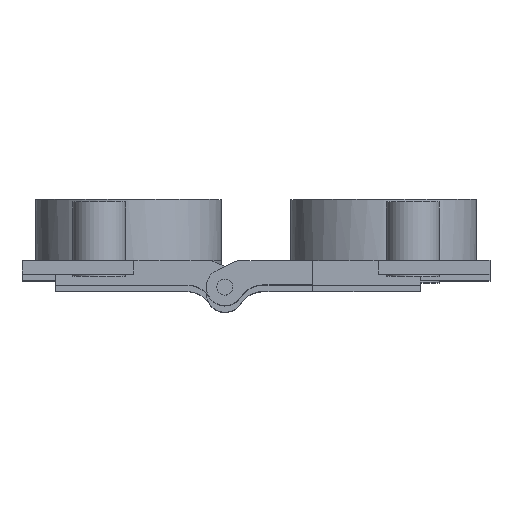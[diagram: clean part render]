
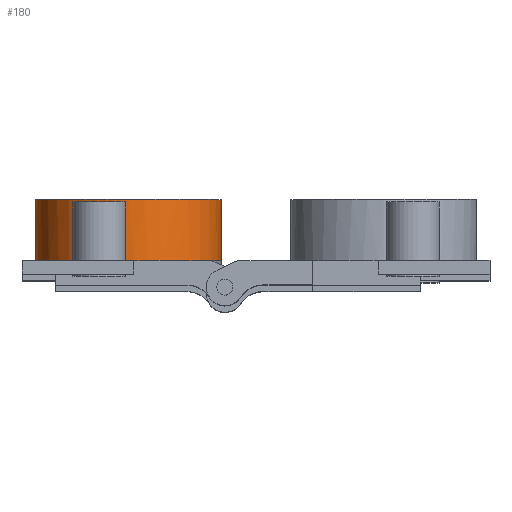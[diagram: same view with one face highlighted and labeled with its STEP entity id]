
A CAD part, top view. The second image highlights one B-rep face of the part: STEP entity #180.
In plain terms, the highlighted cylindrical face has radius 17.5 mm (diameter 35 mm), a full revolution.
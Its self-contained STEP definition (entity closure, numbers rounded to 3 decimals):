
#180 = ADVANCED_FACE( '', ( #417, #418 ), #419, .T. );
#417 = FACE_OUTER_BOUND( '', #734, .T. );
#418 = FACE_OUTER_BOUND( '', #735, .T. );
#419 = CYLINDRICAL_SURFACE( '', #736, 17.5 );
#734 = EDGE_LOOP( '', ( #1131, #1132, #1133, #1134, #1135, #1136, #1137, #1138, #1139, #1140 ) );
#735 = EDGE_LOOP( '', ( #1141 ) );
#736 = AXIS2_PLACEMENT_3D( '', #1142, #1143, #1144 );
#1131 = ORIENTED_EDGE( '', *, *, #1856, .F. );
#1132 = ORIENTED_EDGE( '', *, *, #1857, .F. );
#1133 = ORIENTED_EDGE( '', *, *, #1858, .F. );
#1134 = ORIENTED_EDGE( '', *, *, #1799, .F. );
#1135 = ORIENTED_EDGE( '', *, *, #1859, .F. );
#1136 = ORIENTED_EDGE( '', *, *, #1807, .F. );
#1137 = ORIENTED_EDGE( '', *, *, #1860, .F. );
#1138 = ORIENTED_EDGE( '', *, *, #1804, .F. );
#1139 = ORIENTED_EDGE( '', *, *, #1861, .F. );
#1140 = ORIENTED_EDGE( '', *, *, #1862, .F. );
#1141 = ORIENTED_EDGE( '', *, *, #1863, .T. );
#1142 = CARTESIAN_POINT( '', ( -24., -50., 0. ) );
#1143 = DIRECTION( '', ( 0., 1., 0. ) );
#1144 = DIRECTION( '', ( 0., 0., -1. ) );
#1799 = EDGE_CURVE( '', #2129, #2130, #2131, .T. );
#1804 = EDGE_CURVE( '', #2137, #2139, #2140, .T. );
#1807 = EDGE_CURVE( '', #2143, #2145, #2146, .T. );
#1856 = EDGE_CURVE( '', #2230, #2231, #2232, .T. );
#1857 = EDGE_CURVE( '', #2233, #2230, #2234, .T. );
#1858 = EDGE_CURVE( '', #2130, #2233, #2235, .T. );
#1859 = EDGE_CURVE( '', #2145, #2129, #2236, .T. );
#1860 = EDGE_CURVE( '', #2139, #2143, #2237, .T. );
#1861 = EDGE_CURVE( '', #2238, #2137, #2239, .T. );
#1862 = EDGE_CURVE( '', #2231, #2238, #2240, .T. );
#1863 = EDGE_CURVE( '', #2241, #2241, #2242, .T. );
#2129 = VERTEX_POINT( '', #2589 );
#2130 = VERTEX_POINT( '', #2590 );
#2131 = CIRCLE( '', #2591, 17.5 );
#2137 = VERTEX_POINT( '', #2600 );
#2139 = VERTEX_POINT( '', #2603 );
#2140 = CIRCLE( '', #2604, 17.5 );
#2143 = VERTEX_POINT( '', #2608 );
#2145 = VERTEX_POINT( '', #2611 );
#2146 = CIRCLE( '', #2612, 17.5 );
#2230 = VERTEX_POINT( '', #2719 );
#2231 = VERTEX_POINT( '', #2720 );
#2232 = CIRCLE( '', #2721, 17.5 );
#2233 = VERTEX_POINT( '', #2722 );
#2234 = CIRCLE( '', #2723, 17.5 );
#2235 = CIRCLE( '', #2724, 17.5 );
#2236 = CIRCLE( '', #2725, 17.5 );
#2237 = CIRCLE( '', #2726, 17.5 );
#2238 = VERTEX_POINT( '', #2727 );
#2239 = CIRCLE( '', #2728, 17.5 );
#2240 = CIRCLE( '', #2729, 17.5 );
#2241 = VERTEX_POINT( '', #2730 );
#2242 = CIRCLE( '', #2731, 17.5 );
#2589 = CARTESIAN_POINT( '', ( -38.697, 0., -9.5 ) );
#2590 = CARTESIAN_POINT( '', ( -23., 0., -17.471 ) );
#2591 = AXIS2_PLACEMENT_3D( '', #3131, #3132, #3133 );
#2600 = CARTESIAN_POINT( '', ( -23., 0., 17.471 ) );
#2603 = CARTESIAN_POINT( '', ( -38.697, 0., 9.5 ) );
#2604 = AXIS2_PLACEMENT_3D( '', #3138, #3139, #3140 );
#2608 = CARTESIAN_POINT( '', ( -39., 0., 9.014 ) );
#2611 = CARTESIAN_POINT( '', ( -39., 0., -9.014 ) );
#2612 = AXIS2_PLACEMENT_3D( '', #3143, #3144, #3145 );
#2719 = CARTESIAN_POINT( '', ( -8.29, 0., -7.71 ) );
#2720 = CARTESIAN_POINT( '', ( -8.29, 0., 7.71 ) );
#2721 = AXIS2_PLACEMENT_3D( '', #3214, #3215, #3216 );
#2722 = CARTESIAN_POINT( '', ( -8.962, 0., -8.95 ) );
#2723 = AXIS2_PLACEMENT_3D( '', #3217, #3218, #3219 );
#2724 = AXIS2_PLACEMENT_3D( '', #3220, #3221, #3222 );
#2725 = AXIS2_PLACEMENT_3D( '', #3223, #3224, #3225 );
#2726 = AXIS2_PLACEMENT_3D( '', #3226, #3227, #3228 );
#2727 = CARTESIAN_POINT( '', ( -8.962, 0., 8.95 ) );
#2728 = AXIS2_PLACEMENT_3D( '', #3229, #3230, #3231 );
#2729 = AXIS2_PLACEMENT_3D( '', #3232, #3233, #3234 );
#2730 = CARTESIAN_POINT( '', ( -24., 11.5, -17.5 ) );
#2731 = AXIS2_PLACEMENT_3D( '', #3235, #3236, #3237 );
#3131 = CARTESIAN_POINT( '', ( -24., 0., 0. ) );
#3132 = DIRECTION( '', ( 0., -1., 0. ) );
#3133 = DIRECTION( '', ( 0., 0., -1. ) );
#3138 = CARTESIAN_POINT( '', ( -24., 0., 0. ) );
#3139 = DIRECTION( '', ( 0., -1., 0. ) );
#3140 = DIRECTION( '', ( 0., 0., -1. ) );
#3143 = CARTESIAN_POINT( '', ( -24., 0., 0. ) );
#3144 = DIRECTION( '', ( 0., -1., 0. ) );
#3145 = DIRECTION( '', ( 0., 0., -1. ) );
#3214 = CARTESIAN_POINT( '', ( -24., 0., 0. ) );
#3215 = DIRECTION( '', ( 0., -1., 0. ) );
#3216 = DIRECTION( '', ( 0., 0., -1. ) );
#3217 = CARTESIAN_POINT( '', ( -24., 0., 0. ) );
#3218 = DIRECTION( '', ( 0., -1., 0. ) );
#3219 = DIRECTION( '', ( 0., 0., -1. ) );
#3220 = CARTESIAN_POINT( '', ( -24., 0., 0. ) );
#3221 = DIRECTION( '', ( 0., -1., 0. ) );
#3222 = DIRECTION( '', ( 0., 0., -1. ) );
#3223 = CARTESIAN_POINT( '', ( -24., 0., 0. ) );
#3224 = DIRECTION( '', ( 0., -1., 0. ) );
#3225 = DIRECTION( '', ( 0., 0., -1. ) );
#3226 = CARTESIAN_POINT( '', ( -24., 0., 0. ) );
#3227 = DIRECTION( '', ( 0., -1., 0. ) );
#3228 = DIRECTION( '', ( 0., 0., -1. ) );
#3229 = CARTESIAN_POINT( '', ( -24., 0., 0. ) );
#3230 = DIRECTION( '', ( 0., -1., 0. ) );
#3231 = DIRECTION( '', ( 0., 0., -1. ) );
#3232 = CARTESIAN_POINT( '', ( -24., 0., 0. ) );
#3233 = DIRECTION( '', ( 0., -1., 0. ) );
#3234 = DIRECTION( '', ( 0., 0., -1. ) );
#3235 = CARTESIAN_POINT( '', ( -24., 11.5, 0. ) );
#3236 = DIRECTION( '', ( 0., -1., 0. ) );
#3237 = DIRECTION( '', ( 0., 0., -1. ) );
